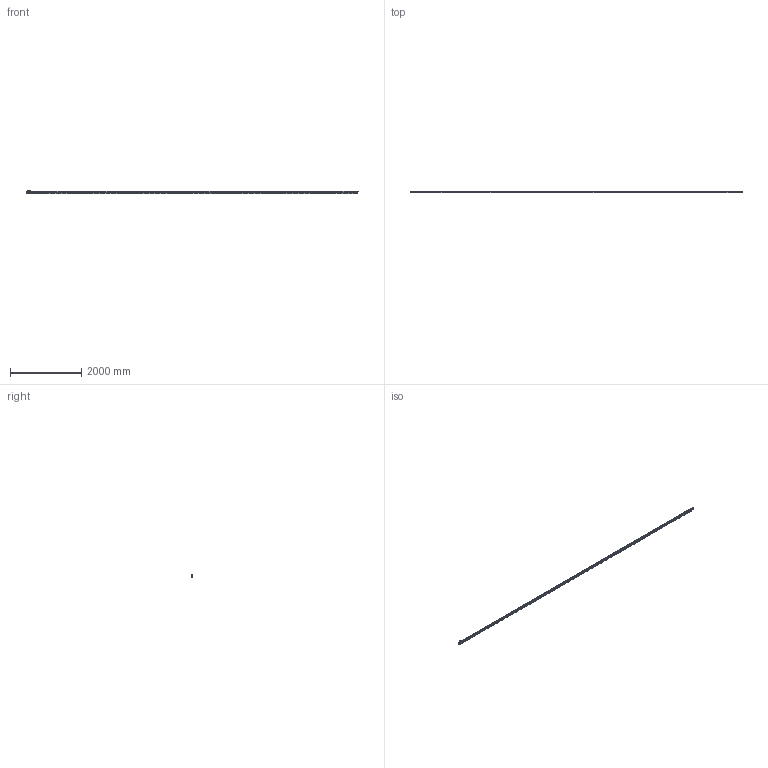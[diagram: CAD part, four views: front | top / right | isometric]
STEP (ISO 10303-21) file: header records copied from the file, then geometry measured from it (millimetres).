
FILE_DESCRIPTION(('Creo Elements/Direct Modeling STEP Export'),'2;1');
FILE_NAME('L3_9040-M-T.stp','2025-04-01T 9:01:06',(''),(''),'Creo Elements/Direct Modeling STEP processor for AP214 (Solid Model)','Creo Elements/Direct Modeling 20.4A 18-Oct-2021 (C) Parametric Technology GmbH','');
FILE_SCHEMA(('AUTOMOTIVE_DESIGN { 1 0 10303 214 1 1 1 1 }'));
Products named in the file (4): REGLA; CABEZA_L3-M_T_M6; L3_9040-M-T; L3_9040-M-T.stp
Assembly tree (3 placements, depth 3):
  L3_9040-M-T.stp
    L3_9040-M-T
      CABEZA_L3-M_T_M6
      REGLA
Bounding box: 9290 x 50 x 85 mm (x, y, z)
Volume: 24060100.5 mm3; surface area: 2697128.6 mm2
Topology: 2 solids, 2 shells, 2664 faces, 7621 edges, 5062 vertices
Faces by surface type: plane 1337, cylinder 932, cone 280, bspline 59, torus 50, extrusion 6
Entity records: 103273 total; most frequent: CARTESIAN_POINT 27915, ORIENTED_EDGE 15226, DIRECTION 13734, EDGE_CURVE 7613, VERTEX_POINT 5062, VECTOR 4828, LINE 4822, AXIS2_PLACEMENT_3D 4453
